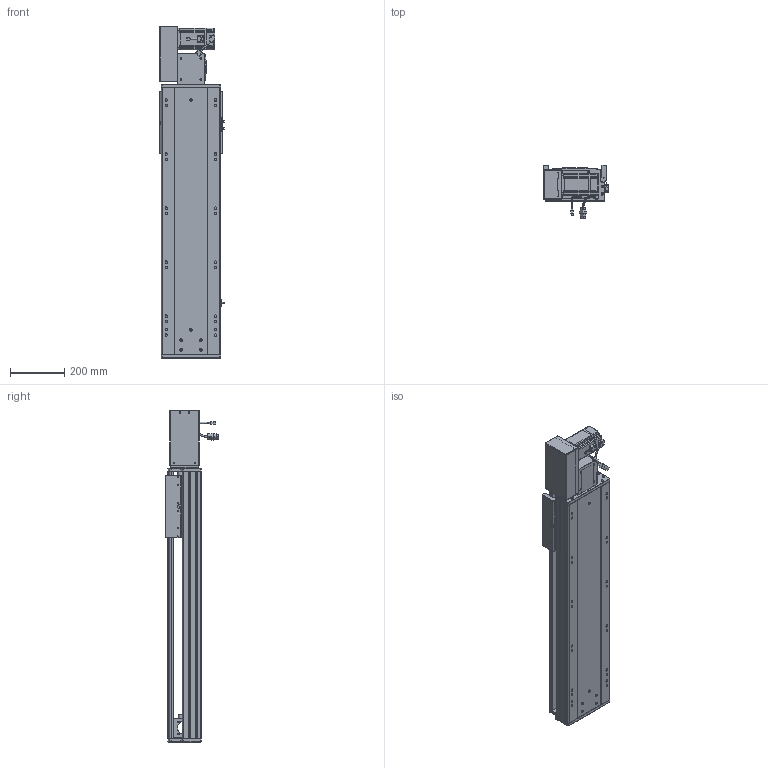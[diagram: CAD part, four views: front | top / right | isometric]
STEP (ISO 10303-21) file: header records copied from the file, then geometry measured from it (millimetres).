
FILE_DESCRIPTION (( 'STEP AP203' ), '1' );
FILE_NAME ('RY220-T-300-LK.SLDASM_650.step', '2022-07-25T08:13:26', ( '' ), ( '' ), 'SwSTEP 2.0', 'SolidWorks 2016', '' );
FILE_SCHEMA (( 'CONFIG_CONTROL_DESIGN' ));
Length unit declared in the file: millimetre
Products named in the file (14): 覜茼ん672; RY220-T-300-LK.SLDASM_650; RY220-T-蛌殏萇儂假蚾啣(750W); RY220翋肮祭謫釱; RY220-T-湍謫欶(鍼踢); 怢湛750W_ECMA-CX0807ES; RY220-俋离672覜茼んえ; RY220-同步轮副支撑座6304×2; 110A-T-肮祭謫釱傷裔; 滅袉蝶18-15; RY220-T菁釱-300_650; RY220圉猾敕々湍臏賑輸; RY220-T-300-奻裔啣_650; RY220翋肮祭謫裔啣
Assembly tree (18 placements, depth 2):
  RY220-T-300-LK.SLDASM_650
    RY220-T菁釱-300_650
    RY220翋肮祭謫釱
    覜茼ん672  x3
    RY220圉猾敕々湍臏賑輸
    RY220-T-300-奻裔啣_650
    RY220-俋离672覜茼んえ
    滅袉蝶18-15  x3
    RY220翋肮祭謫裔啣  x2
    110A-T-肮祭謫釱傷裔
    怢湛750W_ECMA-CX0807ES
    RY220-T-湍謫欶(鍼踢)
    RY220-T-蛌殏萇儂假蚾啣(750W)
    RY220-同步轮副支撑座6304×2
Bounding box: 239.7 x 198.77 x 1229 mm (x, y, z)
Volume: 9991860.6 mm3; surface area: 2842727.8 mm2
Topology: 19 solids, 19 shells, 2562 faces, 7067 edges, 4498 vertices
Faces by surface type: cylinder 1186, plane 1069, cone 225, bspline 56, sphere 16, torus 10
Entity records: 85251 total; most frequent: CARTESIAN_POINT 24403, ORIENTED_EDGE 12666, DIRECTION 11904, EDGE_CURVE 6333, AXIS2_PLACEMENT_3D 4188, VERTEX_POINT 4122, LINE 3528, VECTOR 3528
